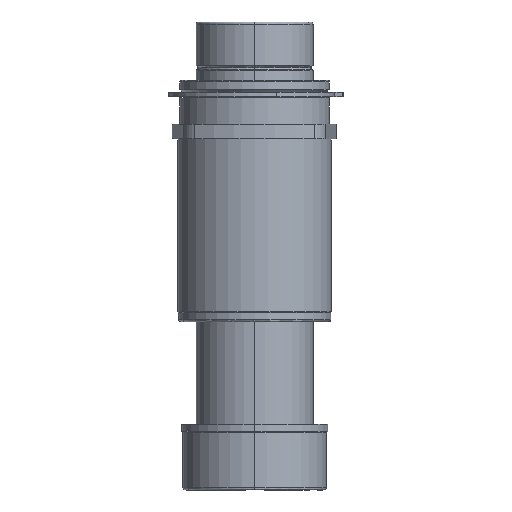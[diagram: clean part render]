
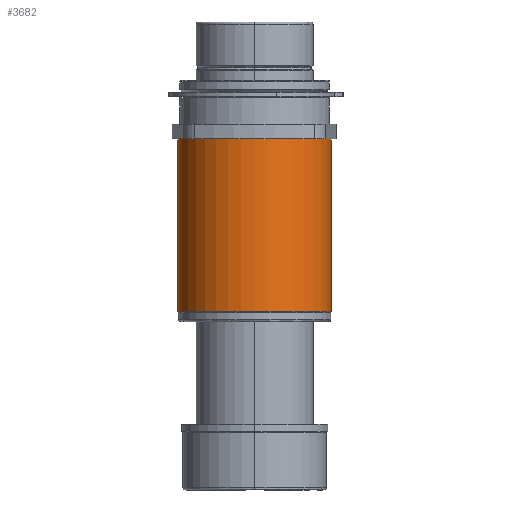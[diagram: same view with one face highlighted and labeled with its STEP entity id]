
A CAD part, left-side view. The second image highlights one B-rep face of the part: STEP entity #3682.
In plain terms, the highlighted cylindrical face has radius 33.326 mm (diameter 66.652 mm), a partial arc.
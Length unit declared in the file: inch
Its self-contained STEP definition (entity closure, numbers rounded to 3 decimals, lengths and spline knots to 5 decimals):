
#203 = VERTEX_POINT ( 'NONE', #1943 ) ;
#383 = AXIS2_PLACEMENT_3D ( 'NONE', #3042, #644, #3061 ) ;
#416 = VERTEX_POINT ( 'NONE', #3680 ) ;
#619 = LINE ( 'NONE', #4743, #4729 ) ;
#644 = DIRECTION ( 'NONE',  ( 0., -1., 0. ) ) ;
#897 = ORIENTED_EDGE ( 'NONE', *, *, #1492, .T. ) ;
#1380 = DIRECTION ( 'NONE',  ( 0., 0., 1. ) ) ;
#1492 = EDGE_CURVE ( 'NONE', #3416, #2232, #4862, .T. ) ;
#1663 = CARTESIAN_POINT ( 'NONE',  ( 0., -2.95, 1.31205 ) ) ;
#1684 = CIRCLE ( 'NONE', #4575, 1.31205 ) ;
#1784 = CARTESIAN_POINT ( 'NONE',  ( 0., 0., 1.31205 ) ) ;
#1884 = CARTESIAN_POINT ( 'NONE',  ( 0., -3.125, 1.31205 ) ) ;
#1943 = CARTESIAN_POINT ( 'NONE',  ( 0., -2.95, -1.31205 ) ) ;
#2232 = VERTEX_POINT ( 'NONE', #1784 ) ;
#2468 = FACE_OUTER_BOUND ( 'NONE', #4002, .T. ) ;
#2529 = EDGE_CURVE ( 'NONE', #203, #416, #619, .T. ) ;
#2538 = ORIENTED_EDGE ( 'NONE', *, *, #3919, .T. ) ;
#2648 = ORIENTED_EDGE ( 'NONE', *, *, #4192, .F. ) ;
#2713 = CYLINDRICAL_SURFACE ( 'NONE', #4746, 1.31205 ) ;
#3042 = CARTESIAN_POINT ( 'NONE',  ( 0., 0., 0. ) ) ;
#3061 = DIRECTION ( 'NONE',  ( 0., 0., 1. ) ) ;
#3416 = VERTEX_POINT ( 'NONE', #1663 ) ;
#3680 = CARTESIAN_POINT ( 'NONE',  ( 0., 0., -1.31205 ) ) ;
#3682 = ADVANCED_FACE ( 'NONE', ( #2468 ), #2713, .T. ) ;
#3789 = DIRECTION ( 'NONE',  ( 0., 1., 0. ) ) ;
#3919 = EDGE_CURVE ( 'NONE', #2232, #416, #4183, .T. ) ;
#3941 = DIRECTION ( 'NONE',  ( 0., 1., 0. ) ) ;
#3971 = VECTOR ( 'NONE', #5063, 39.37008 ) ;
#4002 = EDGE_LOOP ( 'NONE', ( #5042, #2648, #897, #2538 ) ) ;
#4183 = CIRCLE ( 'NONE', #383, 1.31205 ) ;
#4192 = EDGE_CURVE ( 'NONE', #3416, #203, #1684, .T. ) ;
#4299 = CARTESIAN_POINT ( 'NONE',  ( 0., -2.95, 0. ) ) ;
#4575 = AXIS2_PLACEMENT_3D ( 'NONE', #4299, #5164, #4691 ) ;
#4691 = DIRECTION ( 'NONE',  ( 0., 0., 1. ) ) ;
#4729 = VECTOR ( 'NONE', #3941, 39.37008 ) ;
#4743 = CARTESIAN_POINT ( 'NONE',  ( 0., -3.125, -1.31205 ) ) ;
#4746 = AXIS2_PLACEMENT_3D ( 'NONE', #5009, #3789, #1380 ) ;
#4862 = LINE ( 'NONE', #1884, #3971 ) ;
#5009 = CARTESIAN_POINT ( 'NONE',  ( 0., -3.125, 0. ) ) ;
#5042 = ORIENTED_EDGE ( 'NONE', *, *, #2529, .F. ) ;
#5063 = DIRECTION ( 'NONE',  ( 0., 1., 0. ) ) ;
#5164 = DIRECTION ( 'NONE',  ( 0., -1., 0. ) ) ;
